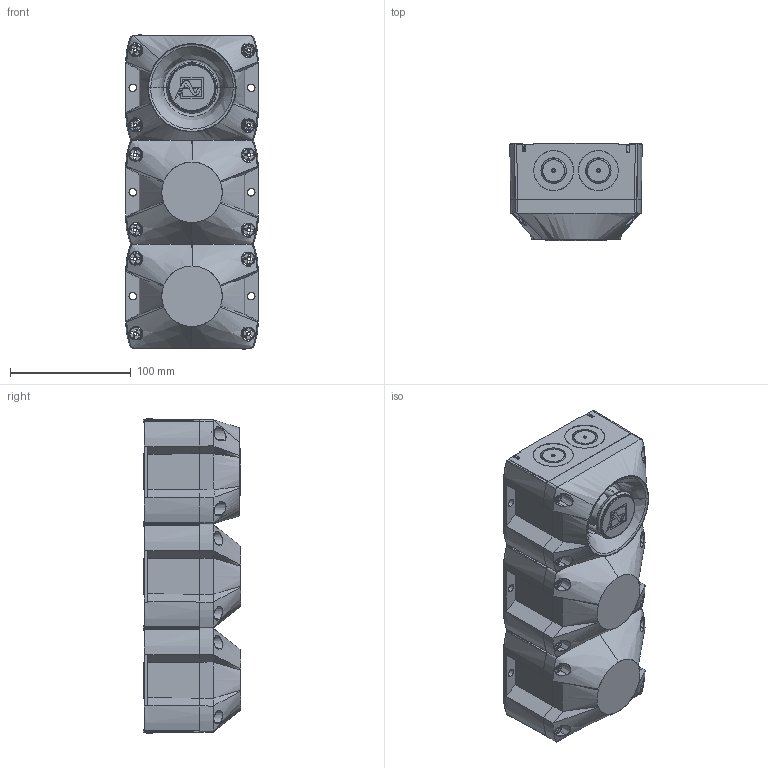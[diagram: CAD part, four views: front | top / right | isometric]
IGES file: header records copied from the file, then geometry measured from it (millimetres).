
Start section: SolidWorks IGES file using analytic representation for surfaces
Global section: file name: L:\3D Volumenmodelle\PATROL_PYRA\PY L-S-TLA\PY L-S-TLA-2\30436-100-3.IGS; native system: SolidWorks 2018; preprocessor: SolidWorks 2018; author: pdg_mm; date: 200421.115649; units: millimetre
Bounding box: 109.61 x 80.6 x 261.4 mm (x, y, z)
Surface area: 168504.6 mm2 (no closed solid volume)
Topology: 0 solids, 0 shells, 1126 faces, 26086 edges, 26080 vertices
Faces by surface type: bspline 890, revolution 236
